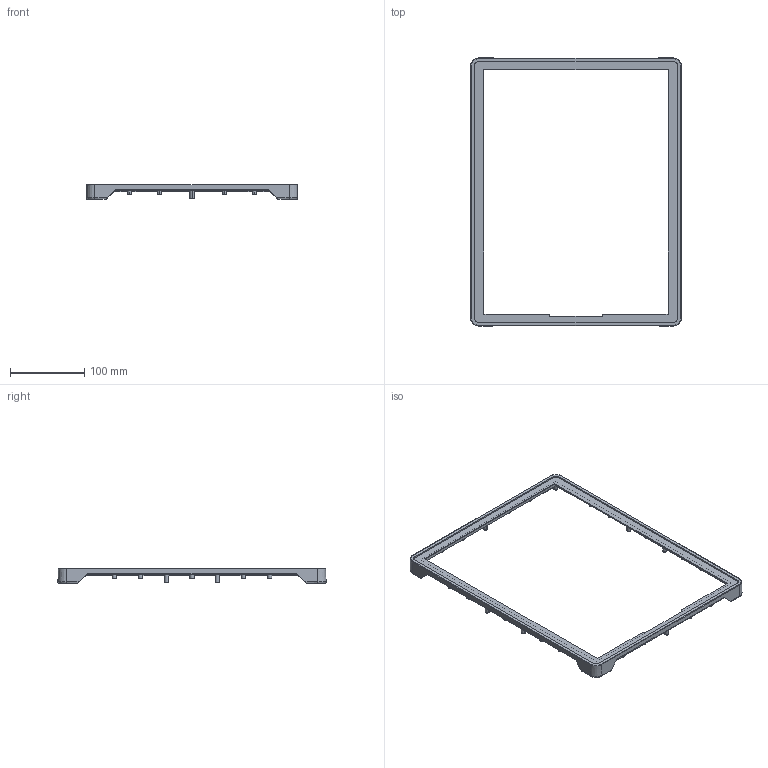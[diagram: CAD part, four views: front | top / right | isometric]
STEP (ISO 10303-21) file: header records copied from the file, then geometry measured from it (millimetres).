
FILE_DESCRIPTION(/* description */ (''),/* implementation_level */ '2;1');
FILE_NAME(/* name */ '15.stp',/* time_stamp */ '2021-07-02T17:17:59+08:00',/* author */ (''),/* organization */ (''),/* preprocessor_version */ 'ST-DEVELOPER v14',/* originating_system */ 'SIEMENS PLM Software NX 8.0',/* authorisation */ '');
FILE_SCHEMA (('AUTOMOTIVE_DESIGN { 1 0 10303 214 3 1 1 1 }'));
Length unit declared in the file: millimetre
Products named in the file (1): Admi1994CAA4lfp8
Bounding box: 284.09 x 360.47 x 20.08 mm (x, y, z)
Volume: 88063.1 mm3; surface area: 92451.8 mm2
Topology: 1 solids, 1 shells, 1468 faces, 4143 edges, 2707 vertices
Faces by surface type: plane 1248, cylinder 148, cone 64, torus 8
Entity records: 47134 total; most frequent: CARTESIAN_POINT 8799, ORIENTED_EDGE 8286, DIRECTION 7632, EDGE_CURVE 4143, LINE 3272, VECTOR 3272, VERTEX_POINT 2707, AXIS2_PLACEMENT_3D 2180
